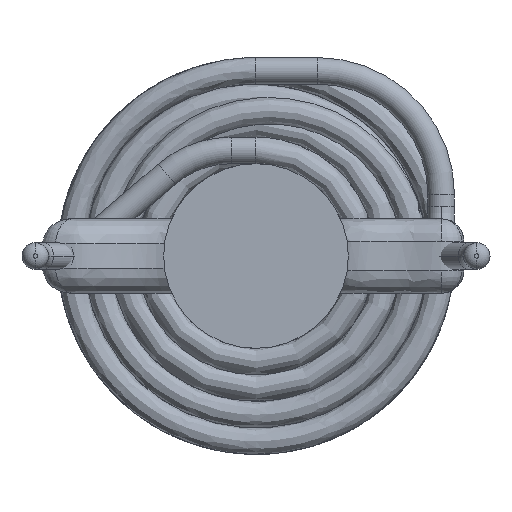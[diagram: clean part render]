
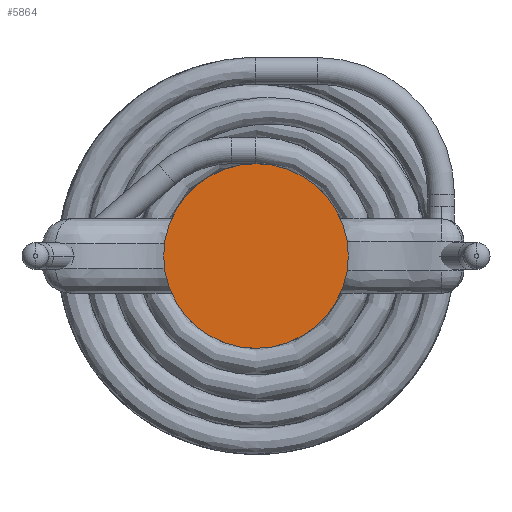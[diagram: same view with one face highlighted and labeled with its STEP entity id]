
A CAD part, front view. The second image highlights one B-rep face of the part: STEP entity #5864.
In plain terms, the highlighted planar face has unit normal (0, -1, 0).
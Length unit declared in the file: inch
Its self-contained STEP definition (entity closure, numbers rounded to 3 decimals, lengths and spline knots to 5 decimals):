
#141 = CARTESIAN_POINT ( 'NONE',  ( 0., 0., 0.14656 ) ) ;
#1001 = VERTEX_POINT ( 'NONE', #9702 ) ;
#2028 = CIRCLE ( 'NONE', #14216, 0.14656 ) ;
#2386 = CIRCLE ( 'NONE', #17191, 0.14656 ) ;
#3944 = CARTESIAN_POINT ( 'NONE',  ( 0., 0., 0. ) ) ;
#4369 = DIRECTION ( 'NONE',  ( 0., 0., 1. ) ) ;
#5864 = ADVANCED_FACE ( 'NONE', ( #7523 ), #24380, .F. ) ;
#7523 = FACE_OUTER_BOUND ( 'NONE', #10645, .T. ) ;
#9702 = CARTESIAN_POINT ( 'NONE',  ( 0., 0., -0.14656 ) ) ;
#10645 = EDGE_LOOP ( 'NONE', ( #22921, #20605 ) ) ;
#11623 = DIRECTION ( 'NONE',  ( 0., 1., 0. ) ) ;
#12188 = CARTESIAN_POINT ( 'NONE',  ( 0., 0., 0. ) ) ;
#14216 = AXIS2_PLACEMENT_3D ( 'NONE', #12188, #19021, #21299 ) ;
#16538 = EDGE_CURVE ( 'NONE', #26967, #1001, #2028, .T. ) ;
#17191 = AXIS2_PLACEMENT_3D ( 'NONE', #3944, #25772, #22143 ) ;
#19021 = DIRECTION ( 'NONE',  ( 0., 1., 0. ) ) ;
#19314 = AXIS2_PLACEMENT_3D ( 'NONE', #26639, #11623, #4369 ) ;
#20605 = ORIENTED_EDGE ( 'NONE', *, *, #16538, .F. ) ;
#21299 = DIRECTION ( 'NONE',  ( 0., 0., 1. ) ) ;
#22143 = DIRECTION ( 'NONE',  ( 0., 0., 1. ) ) ;
#22921 = ORIENTED_EDGE ( 'NONE', *, *, #23647, .F. ) ;
#23647 = EDGE_CURVE ( 'NONE', #1001, #26967, #2386, .T. ) ;
#24380 = PLANE ( 'NONE',  #19314 ) ;
#25772 = DIRECTION ( 'NONE',  ( 0., 1., 0. ) ) ;
#26639 = CARTESIAN_POINT ( 'NONE',  ( 0., 0., 0. ) ) ;
#26967 = VERTEX_POINT ( 'NONE', #141 ) ;
